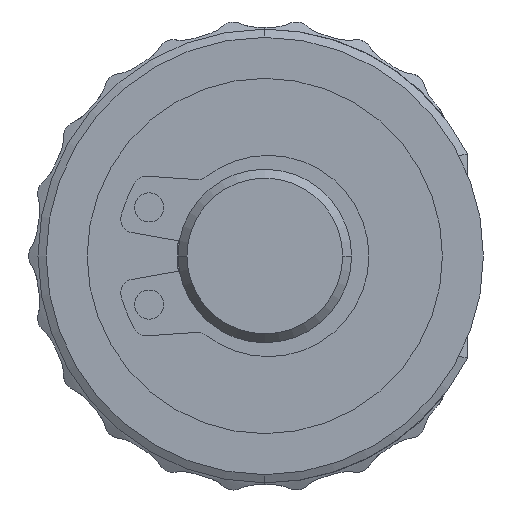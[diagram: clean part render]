
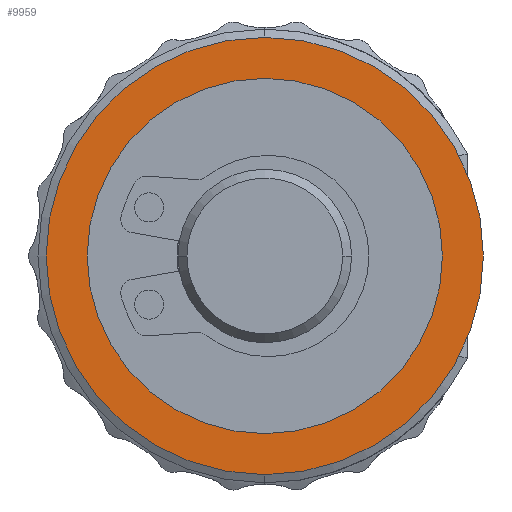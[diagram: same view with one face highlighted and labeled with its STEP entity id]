
A CAD part, left-side view. The second image highlights one B-rep face of the part: STEP entity #9959.
In plain terms, the highlighted planar face has unit normal (-1, 0, 0).
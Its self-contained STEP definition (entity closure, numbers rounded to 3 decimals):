
#672 = CARTESIAN_POINT ( 'NONE',  ( -8.925, 0.09, 8. ) ) ;
#1361 = DIRECTION ( 'NONE',  ( -1., 0., 0. ) ) ;
#1488 = EDGE_CURVE ( 'NONE', #1598, #4571, #8967, .T. ) ;
#1598 = VERTEX_POINT ( 'NONE', #6550 ) ;
#1896 = CARTESIAN_POINT ( 'NONE',  ( -8.925, 0.09, 0. ) ) ;
#3035 = DIRECTION ( 'NONE',  ( 0., 0., 1. ) ) ;
#3711 = FACE_BOUND ( 'NONE', #7752, .T. ) ;
#4406 = CARTESIAN_POINT ( 'NONE',  ( -8.925, 0.09, 0. ) ) ;
#4541 = DIRECTION ( 'NONE',  ( 0., 0., 1. ) ) ;
#4571 = VERTEX_POINT ( 'NONE', #11292 ) ;
#5492 = CARTESIAN_POINT ( 'NONE',  ( -8.925, 0.09, 0. ) ) ;
#5521 = DIRECTION ( 'NONE',  ( 0., 0., 1. ) ) ;
#5697 = ORIENTED_EDGE ( 'NONE', *, *, #13875, .T. ) ;
#5714 = EDGE_LOOP ( 'NONE', ( #14204, #5697 ) ) ;
#6443 = VERTEX_POINT ( 'NONE', #10172 ) ;
#6450 = ORIENTED_EDGE ( 'NONE', *, *, #11343, .F. ) ;
#6550 = CARTESIAN_POINT ( 'NONE',  ( -8.925, 0.09, -6.5 ) ) ;
#6622 = DIRECTION ( 'NONE',  ( 0., 0., 1. ) ) ;
#6745 = PLANE ( 'NONE',  #10265 ) ;
#6891 = AXIS2_PLACEMENT_3D ( 'NONE', #4406, #12294, #5521 ) ;
#7752 = EDGE_LOOP ( 'NONE', ( #14040, #6450 ) ) ;
#7877 = CIRCLE ( 'NONE', #8191, 8. ) ;
#8072 = CARTESIAN_POINT ( 'NONE',  ( -8.925, 0.09, 0. ) ) ;
#8191 = AXIS2_PLACEMENT_3D ( 'NONE', #5492, #13374, #6622 ) ;
#8416 = AXIS2_PLACEMENT_3D ( 'NONE', #1896, #9755, #3035 ) ;
#8653 = VERTEX_POINT ( 'NONE', #672 ) ;
#8946 = FACE_OUTER_BOUND ( 'NONE', #5714, .T. ) ;
#8967 = CIRCLE ( 'NONE', #8416, 6.5 ) ;
#9209 = DIRECTION ( 'NONE',  ( 0., 0., 1. ) ) ;
#9755 = DIRECTION ( 'NONE',  ( -1., 0., 0. ) ) ;
#9959 = ADVANCED_FACE ( 'NONE', ( #8946, #3711 ), #6745, .T. ) ;
#10166 = CIRCLE ( 'NONE', #10377, 6.5 ) ;
#10172 = CARTESIAN_POINT ( 'NONE',  ( -8.925, 0.09, -8. ) ) ;
#10265 = AXIS2_PLACEMENT_3D ( 'NONE', #11246, #11293, #4541 ) ;
#10377 = AXIS2_PLACEMENT_3D ( 'NONE', #8072, #1361, #9209 ) ;
#10771 = EDGE_CURVE ( 'NONE', #6443, #8653, #7877, .T. ) ;
#11246 = CARTESIAN_POINT ( 'NONE',  ( -8.925, 0.09, 0. ) ) ;
#11292 = CARTESIAN_POINT ( 'NONE',  ( -8.925, 0.09, 6.5 ) ) ;
#11293 = DIRECTION ( 'NONE',  ( -1., 0., 0. ) ) ;
#11343 = EDGE_CURVE ( 'NONE', #4571, #1598, #10166, .T. ) ;
#12294 = DIRECTION ( 'NONE',  ( -1., 0., 0. ) ) ;
#13374 = DIRECTION ( 'NONE',  ( -1., 0., 0. ) ) ;
#13835 = CIRCLE ( 'NONE', #6891, 8. ) ;
#13875 = EDGE_CURVE ( 'NONE', #8653, #6443, #13835, .T. ) ;
#14040 = ORIENTED_EDGE ( 'NONE', *, *, #1488, .F. ) ;
#14204 = ORIENTED_EDGE ( 'NONE', *, *, #10771, .T. ) ;
